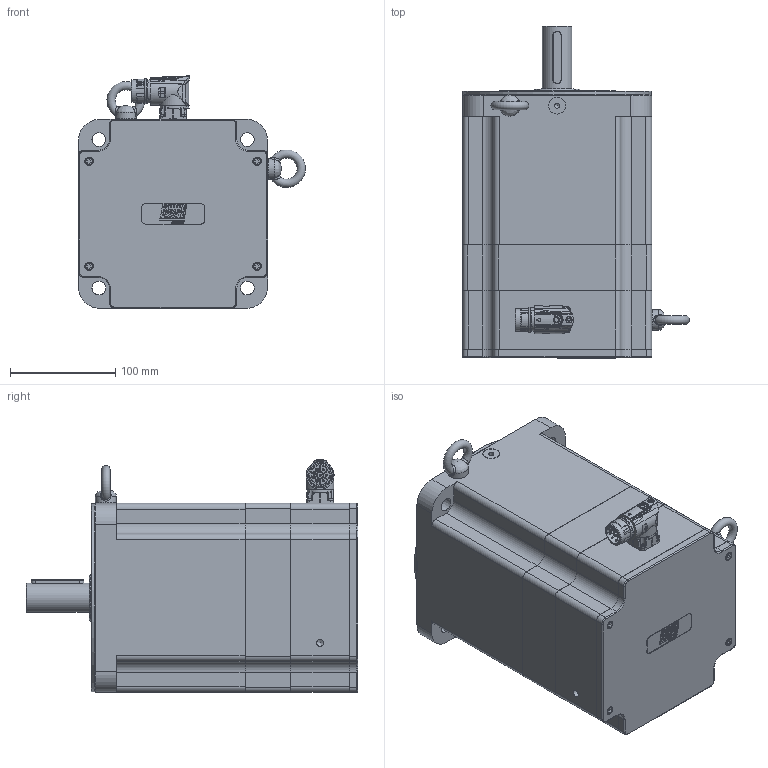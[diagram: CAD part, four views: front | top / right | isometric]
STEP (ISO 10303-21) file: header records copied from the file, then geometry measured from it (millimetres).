
FILE_DESCRIPTION(/* description */ ('Unknown'),/* implementation_level */ '2;1');
FILE_NAME(/* name */ 'TC4-180.7C.X X.X.3.XX.1.X.C21 Q0B807',/* time_stamp */ '2026-03-10T10:41:06+01:00',/* author */ ('Unknown'),/* organization */ ('Unknown'),/* preprocessor_version */ 'ST-DEVELOPER v19.4',/* originating_system */ 'Solid Edge',/* authorisation */ 'Unknown');
FILE_SCHEMA (('AUTOMOTIVE_DESIGN {1 0 10303 214 3 1 1}'));
Products named in the file (16): Q0B807 7C FRENO VUOTO; 005256003057; 003003199970; 003103040231; 003155002233; Coperchio campana TC4-180; 005113000610; 005119001104; 005911000185; 005911000479; 005321000010; 005008000953_oa_0; 005911000180; 003251040631; 007117000456; Corpo TC4-180 7C
Assembly tree (29 placements, depth 2):
  Q0B807 7C FRENO VUOTO
    005256003057
    003003199970
    003103040231
    003155002233
    Coperchio campana TC4-180
    005113000610
    005119001104
    005911000185  x4
    005911000479  x8
    005321000010  x2
    005008000953_oa_0
    005911000180  x4
    003251040631
    007117000456
    Corpo TC4-180 7C
Bounding box: 215.98 x 316 x 221.5 mm (x, y, z)
Volume: 3235129.5 mm3; surface area: 796007.4 mm2
Topology: 30 solids, 56 shells, 2105 faces, 5618 edges, 3659 vertices
Faces by surface type: plane 899, cylinder 563, bspline 247, cone 227, torus 133, sphere 36
Full cylindrical faces by diameter (mm): 1 x4, 1.4 x4, 2 x4, 2.013 x8, 2.5 x4, 2.8 x4, 3 x8, 3.242 x12, 4 x5, 4.134 x16, 4.2 x8, 4.5 x9, 4.7 x4, 4.917 x8, 5 x8, 5.5 x9, 5.8 x1, 5.9 x1, 6.647 x14, 6.8 x1, 7 x6, 8 x8, 8.376 x2, 9 x4, 10 x3, 14 x4, 16 x1, 17.4 x1, 19.9 x1, 20 x3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
Entity records: 75157 total; most frequent: CARTESIAN_POINT 19522, ORIENTED_EDGE 8976, DIRECTION 8976, EDGE_CURVE 4696, AXIS2_PLACEMENT_3D 3402, VERTEX_POINT 3284, FACE_BOUND 2487, EDGE_LOOP 2457
